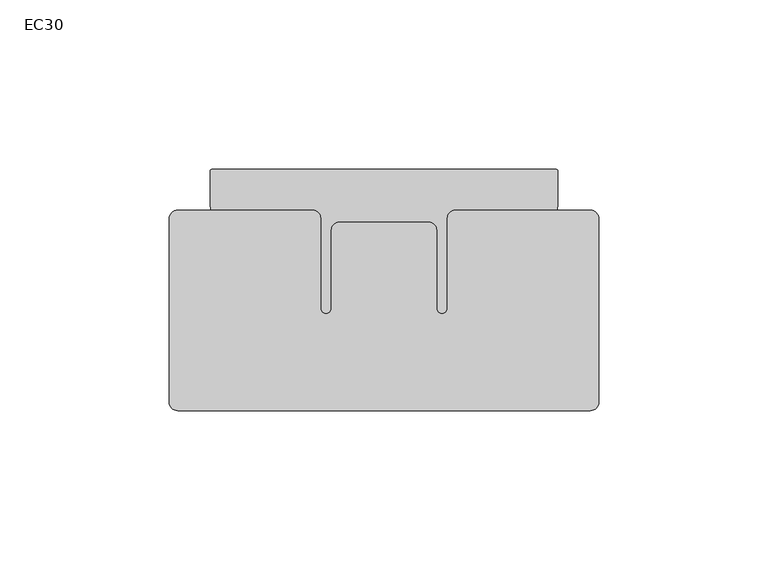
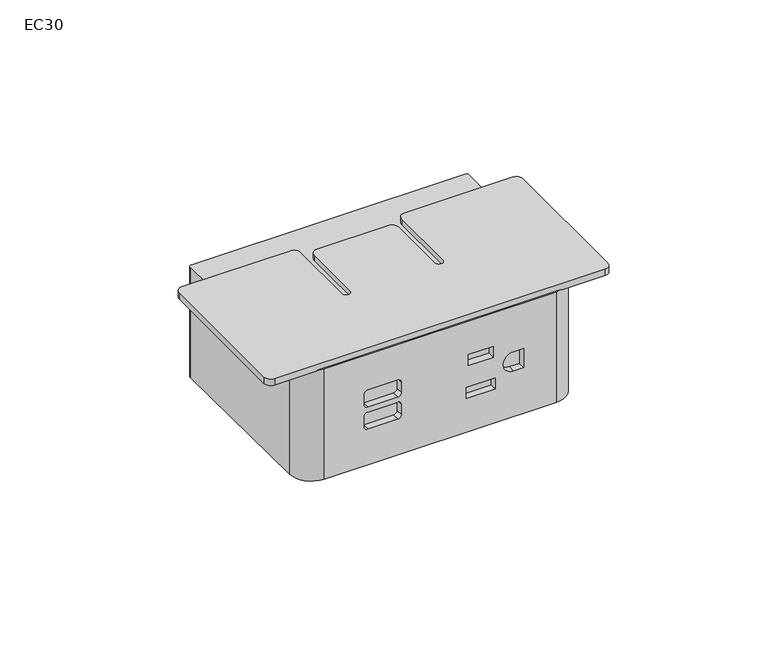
"""IFC4 building model written with IfcOpenShell, lengths in millimetres: furniture geometry, JSI-Teekan-Power_Center : EC30."""

from ifc_helpers import new_model, si_unit, point, frame, frame_2d, origin, place, context, project, spatial, polyline, circle_curve, trimmed, segment, composite_curve, outline, extrude, source, transform, mapped, element, save
from ifc_brep_helpers import plane_surface, cylinder_surface, revolved_surface, advanced_brep


def ec30_fccee3ca(model_context):
    return source(origin(), model_context, "Body", "SolidModel", [
        advanced_brep(
        [(-50.868665, -27.8085302, 271.78), (-42.9314673, -35.6767634, 271.78), (42.9314673, -35.6767634, 271.78), (50.868665, -27.8085302, 271.78), (51.4157054, 34.8760867, 271.78), (50.6219856, 35.6767634, 271.78), (-50.6386388, 35.6767634, 271.78), (-51.4158507, 34.8927392, 271.78), (-50.868665, -27.8085302, 228.6), (-51.4158507, 34.8927392, 228.6), (-50.6386388, 35.6767634, 228.6), (50.6219856, 35.6767634, 228.6), (51.4157054, 34.8760867, 228.6), (50.868665, -27.8085302, 228.6), (42.9314673, -35.6767634, 228.6), (-42.9314673, -35.6767634, 228.6), (-26.654774, -35.6767634, 257.7293861), (-15.5182577, -35.6767634, 257.7293861), (-14.2284139, -35.6767634, 256.4395423), (-14.2284139, -35.6767634, 252.4240577), (-15.5182577, -35.6767634, 251.1342139), (-26.6570983, -35.6767634, 251.1342139), (-27.9355861, -35.6767634, 252.4127017), (-27.9355861, -35.6767634, 256.448574), (-26.6457423, -35.6767634, 249.0935397), (-15.5182577, -35.6767634, 249.0935397), (-14.2284139, -35.6767634, 247.8036959), (-14.2284139, -35.6767634, 243.7882112), (-15.5182577, -35.6767634, 242.4983675), (-26.6457423, -35.6767634, 242.4983675), (-27.9355861, -35.6767634, 243.7882112), (-27.9355861, -35.6767634, 247.8036959), (10.5761384, -35.6767634, 258.6003624), (19.7768627, -35.6767634, 258.6003624), (19.7768627, -35.6767634, 254.3272341), (10.5761384, -35.6767634, 254.3272341), (9.8649384, -35.6767634, 245.9003625), (20.4819631, -35.6767634, 245.9003625), (20.4819631, -35.6767634, 241.6272342), (9.8649384, -35.6767634, 241.6272342), (30.9508221, -35.6767634, 253.8505616), (30.9508221, -35.6767634, 246.3770384), (27.2301188, -35.6767634, 246.3770384), (27.2301188, -35.6767634, 253.8505616), (-15.5182577, -32.8933266, 257.7293861), (-26.654774, -32.8933266, 257.7293861), (-27.9355861, -32.8933266, 256.448574), (-27.9355861, -32.8933266, 252.4127017), (-26.6570983, -32.8933266, 251.1342139), (-15.5182577, -32.8933266, 251.1342139), (-14.2284139, -32.8933266, 252.4240577), (-14.2284139, -32.8933266, 256.4395423), (-15.5182577, -32.8933266, 249.0935397), (-26.6457423, -32.8933266, 249.0935397), (-27.9355861, -32.8933266, 247.8036959), (-27.9355861, -32.8933266, 243.7882112), (-26.6457423, -32.8933266, 242.4983675), (-15.5182577, -32.8933266, 242.4983675), (-14.2284139, -32.8933266, 243.7882112), (-14.2284139, -32.8933266, 247.8036959), (19.7768627, -32.8933266, 258.6003624), (10.5761384, -32.8933266, 258.6003624), (10.5761384, -32.8933266, 254.3272341), (19.7768627, -32.8933266, 254.3272341), (20.4819631, -32.8933266, 245.9003625), (9.8649384, -32.8933266, 245.9003625), (9.8649384, -32.8933266, 241.6272342), (20.4819631, -32.8933266, 241.6272342), (30.9508221, -32.8933266, 246.3770384), (30.9508221, -32.8933266, 253.8505616), (27.2301188, -32.8933266, 253.8505616), (27.2301188, -32.8933266, 246.3770384)],
        [
            (0, 1, circle_curve(frame((-42.9314673, -27.7392634, 271.78), z_axis=(0.0, 0.0, 1.0), x_axis=(1.0, 0.0, 0.0)), 7.9375)),
            (1, 2),
            (2, 3, circle_curve(frame((42.9314673, -27.7392634, 271.78), z_axis=(0.0, 0.0, 1.0), x_axis=(1.0, 0.0, 0.0)), 7.9375)),
            (3, 4),
            (4, 5, circle_curve(frame((50.6219856, 34.8830134, 271.78), z_axis=(0.0, 0.0, 1.0), x_axis=(1.0, 0.0, 0.0)), 0.79375)),
            (5, 6),
            (6, 7, circle_curve(frame((-50.6386388, 34.8995218, 271.78), z_axis=(0.0, 0.0, 1.0), x_axis=(1.0, 0.0, 0.0)), 0.7772415)),
            (7, 0),
            (8, 9),
            (9, 10, circle_curve(frame((-50.6386388, 34.8995218, 228.6), z_axis=(0.0, 0.0, -1.0), x_axis=(1.0, 0.0, 0.0)), 0.7772415)),
            (10, 11),
            (11, 12, circle_curve(frame((50.6219856, 34.8830134, 228.6), z_axis=(0.0, 0.0, -1.0), x_axis=(1.0, 0.0, 0.0)), 0.79375)),
            (12, 13),
            (13, 14, circle_curve(frame((42.9314673, -27.7392634, 228.6), z_axis=(0.0, 0.0, -1.0), x_axis=(1.0, 0.0, 0.0)), 7.9375)),
            (14, 15),
            (15, 8, circle_curve(frame((-42.9314673, -27.7392634, 228.6), z_axis=(0.0, 0.0, -1.0), x_axis=(1.0, 0.0, 0.0)), 7.9375)),
            (0, 8),
            (15, 1),
            (14, 2),
            (16, 17),
            (17, 18, circle_curve(frame((-15.5182577, -35.6767634, 256.4395423), z_axis=(0.0, 1.0, 0.0), x_axis=(1.0, 0.0, 0.0)), 1.2898438)),
            (18, 19),
            (19, 20, circle_curve(frame((-15.5182577, -35.6767634, 252.4240577), z_axis=(0.0, 1.0, 0.0), x_axis=(1.0, 0.0, 0.0)), 1.2898437)),
            (20, 21),
            (21, 22, circle_curve(frame((-26.6570983, -35.6767634, 252.4127017), z_axis=(0.0, 1.0, 0.0), x_axis=(1.0, 0.0, 0.0)), 1.2784878)),
            (22, 23),
            (23, 16, circle_curve(frame((-26.654774, -35.6767634, 256.448574), z_axis=(0.0, 1.0, 0.0), x_axis=(1.0, 0.0, 0.0)), 1.2808121)),
            (24, 25),
            (25, 26, circle_curve(frame((-15.5182577, -35.6767634, 247.8036959), z_axis=(0.0, 1.0, 0.0), x_axis=(1.0, 0.0, 0.0)), 1.2898438)),
            (26, 27),
            (27, 28, circle_curve(frame((-15.5182577, -35.6767634, 243.7882112), z_axis=(0.0, 1.0, 0.0), x_axis=(1.0, 0.0, 0.0)), 1.2898437)),
            (28, 29),
            (29, 30, circle_curve(frame((-26.6457423, -35.6767634, 243.7882112), z_axis=(0.0, 1.0, 0.0), x_axis=(1.0, 0.0, 0.0)), 1.2898438)),
            (30, 31),
            (31, 24, circle_curve(frame((-26.6457423, -35.6767634, 247.8036959), z_axis=(0.0, 1.0, 0.0), x_axis=(1.0, 0.0, 0.0)), 1.2898438)),
            (32, 33),
            (33, 34),
            (34, 35),
            (35, 32),
            (36, 37),
            (37, 38),
            (38, 39),
            (39, 36),
            (40, 41),
            (41, 42),
            (42, 43, circle_curve(frame((27.2301188, -35.6767634, 250.1138), z_axis=(0.0, 1.0, 0.0), x_axis=(1.0, 0.0, 0.0)), 3.7367616)),
            (43, 40),
            (13, 3),
            (12, 4),
            (11, 5),
            (10, 6),
            (9, 7),
            (44, 45),
            (45, 46, circle_curve(frame((-26.654774, -32.8933266, 256.448574), z_axis=(0.0, -1.0, 0.0), x_axis=(1.0, 0.0, 0.0)), 1.2808121)),
            (46, 47),
            (47, 48, circle_curve(frame((-26.6570983, -32.8933266, 252.4127017), z_axis=(0.0, -1.0, 0.0), x_axis=(1.0, 0.0, 0.0)), 1.2784878)),
            (48, 49),
            (49, 50, circle_curve(frame((-15.5182577, -32.8933266, 252.4240577), z_axis=(0.0, -1.0, 0.0), x_axis=(1.0, 0.0, 0.0)), 1.2898438)),
            (50, 51),
            (51, 44, circle_curve(frame((-15.5182577, -32.8933266, 256.4395423), z_axis=(0.0, -1.0, 0.0), x_axis=(1.0, 0.0, 0.0)), 1.2898438)),
            (52, 53),
            (53, 54, circle_curve(frame((-26.6457423, -32.8933266, 247.8036959), z_axis=(0.0, -1.0, 0.0), x_axis=(1.0, 0.0, 0.0)), 1.2898438)),
            (54, 55),
            (55, 56, circle_curve(frame((-26.6457423, -32.8933266, 243.7882112), z_axis=(0.0, -1.0, 0.0), x_axis=(1.0, 0.0, 0.0)), 1.2898437)),
            (56, 57),
            (57, 58, circle_curve(frame((-15.5182577, -32.8933266, 243.7882112), z_axis=(0.0, -1.0, 0.0), x_axis=(1.0, 0.0, 0.0)), 1.2898438)),
            (58, 59),
            (59, 52, circle_curve(frame((-15.5182577, -32.8933266, 247.8036959), z_axis=(0.0, -1.0, 0.0), x_axis=(1.0, 0.0, 0.0)), 1.2898438)),
            (60, 61),
            (61, 62),
            (62, 63),
            (63, 60),
            (64, 65),
            (65, 66),
            (66, 67),
            (67, 64),
            (68, 69),
            (69, 70),
            (70, 71, circle_curve(frame((27.2301188, -32.8933266, 250.1138), z_axis=(0.0, -1.0, 0.0), x_axis=(1.0, 0.0, 0.0)), 3.7367616)),
            (71, 68),
            (44, 17),
            (16, 45),
            (23, 46),
            (22, 47),
            (21, 48),
            (20, 49),
            (19, 50),
            (18, 51),
            (52, 25),
            (24, 53),
            (31, 54),
            (30, 55),
            (29, 56),
            (28, 57),
            (27, 58),
            (26, 59),
            (60, 33),
            (32, 61),
            (35, 62),
            (34, 63),
            (64, 37),
            (36, 65),
            (39, 66),
            (38, 67),
            (68, 41),
            (40, 69),
            (43, 70),
            (42, 71),
        ],
        [
            plane_surface(frame((-34.9939673, -27.7392634, 271.78), z_axis=(0.0, 0.0, 1.0), x_axis=(0.0, 1.0, 0.0))),
            plane_surface(frame((-34.9939673, -27.7392634, 228.6), z_axis=(0.0, 0.0, -1.0), x_axis=(0.0, -1.0, 0.0))),
            cylinder_surface(frame((-42.9314673, -27.7392634, 228.6), z_axis=(0.0, 0.0, 1.0), x_axis=(1.0, 0.0, 0.0)), 7.9375),
            plane_surface(frame((-42.9314673, -35.6767634, 271.78), z_axis=(0.0, -1.0, 0.0), x_axis=(0.0, 0.0, -1.0))),
            cylinder_surface(frame((42.9314673, -27.7392634, 228.6), z_axis=(0.0, 0.0, 1.0), x_axis=(1.0, 0.0, 0.0)), 7.9375),
            plane_surface(frame((50.868665, -27.8085302, 271.78), z_axis=(0.9999619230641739, -0.00872653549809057, 0.0), x_axis=(0.0, 0.0, -1.0))),
            cylinder_surface(frame((50.6219856, 34.8830134, 228.6), z_axis=(0.0, 0.0, 1.0), x_axis=(1.0, 0.0, 0.0)), 0.79375),
            plane_surface(frame((50.6219856, 35.6767634, 271.78), z_axis=(0.0, 1.0, 0.0), x_axis=(0.0, 0.0, -1.0))),
            cylinder_surface(frame((-50.6386388, 34.8995218, 228.6), z_axis=(0.0, 0.0, 1.0), x_axis=(1.0, 0.0, 0.0)), 0.7772415),
            plane_surface(frame((-51.4158507, 34.8927392, 271.78), z_axis=(-0.9999619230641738, -0.008726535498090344, 0.0), x_axis=(0.0, 0.0, -1.0))),
            plane_surface(frame((-25.8158947, -32.8933266, 257.7293861), z_axis=(0.0, -1.0, 0.0), x_axis=(1.0, 0.0, 0.0))),
            plane_surface(frame((-15.5182577, -36.0683266, 257.7293861), z_axis=(0.0, 0.0, -1.0), x_axis=(0.0, 1.0, 0.0))),
            revolved_surface(polyline([(-25.3739619, -35.6767634, 256.448574), (-25.3739619, -32.8933266, 256.448574)]), (-26.654774, -32.8933266, 256.448574), (0.0, -1.0, 0.0)),
            plane_surface(frame((-27.9355861, -36.0683266, 256.448574), z_axis=(1.0, 0.0, 0.0), x_axis=(0.0, 1.0, 0.0))),
            revolved_surface(polyline([(-25.3786105, -35.6767634, 252.4127017), (-25.3786105, -32.8933266, 252.4127017)]), (-26.6570983, -32.8933266, 252.4127017), (0.0, -1.0, 0.0)),
            plane_surface(frame((-26.6570983, -36.0683266, 251.1342139), z_axis=(0.0, 0.0, 1.0), x_axis=(0.0, 1.0, 0.0))),
            revolved_surface(polyline([(-14.2284139, -35.6767634, 252.4240577), (-14.2284139, -32.8933266, 252.4240577)]), (-15.5182577, -32.8933266, 252.4240577), (0.0, -1.0, 0.0)),
            plane_surface(frame((-14.2284139, -36.0683266, 252.4240577), z_axis=(-1.0, 0.0, 0.0), x_axis=(0.0, 1.0, 0.0))),
            revolved_surface(polyline([(-14.2284139, -35.6767634, 256.4395423), (-14.2284139, -32.8933266, 256.4395423)]), (-15.5182577, -32.8933266, 256.4395423), (0.0, -1.0, 0.0)),
            plane_surface(frame((-15.5182577, -36.0683266, 249.0935397), z_axis=(0.0, 0.0, -1.0), x_axis=(0.0, 1.0, 0.0))),
            revolved_surface(polyline([(-25.3558985, -35.6767634, 247.8036959), (-25.3558985, -32.8933266, 247.8036959)]), (-26.6457423, 0.0, 247.8036959), (0.0, -1.0, 0.0)),
            plane_surface(frame((-27.9355861, -36.0683266, 247.8036959), z_axis=(1.0, 0.0, 0.0), x_axis=(0.0, 1.0, 0.0))),
            revolved_surface(polyline([(-25.3558985, -35.6767634, 243.7882112), (-25.3558985, -32.8933266, 243.7882112)]), (-26.6457423, 0.0, 243.7882112), (0.0, -1.0, 0.0)),
            plane_surface(frame((-26.6457423, -36.0683266, 242.4983675), z_axis=(0.0, 0.0, 1.0), x_axis=(0.0, 1.0, 0.0))),
            revolved_surface(polyline([(-14.2284139, -35.6767634, 243.7882112), (-14.2284139, -32.8933266, 243.7882112)]), (-15.5182577, 0.0, 243.7882112), (0.0, -1.0, 0.0)),
            plane_surface(frame((-14.2284139, -36.0683266, 243.7882112), z_axis=(-1.0, 0.0, 0.0), x_axis=(0.0, 1.0, 0.0))),
            revolved_surface(polyline([(-14.2284139, -35.6767634, 247.8036959), (-14.2284139, -32.8933266, 247.8036959)]), (-15.5182577, 0.0, 247.8036959), (0.0, -1.0, 0.0)),
            plane_surface(frame((19.7768627, -36.0683266, 258.6003624), z_axis=(0.0, 0.0, -1.0), x_axis=(0.0, 1.0, 0.0))),
            plane_surface(frame((10.5761384, -36.0683266, 258.6003624), z_axis=(1.0, 0.0, 0.0), x_axis=(0.0, 1.0, 0.0))),
            plane_surface(frame((10.5761384, -36.0683266, 254.3272341), z_axis=(0.0, 0.0, 1.0), x_axis=(0.0, 1.0, 0.0))),
            plane_surface(frame((19.7768627, -36.0683266, 254.3272341), z_axis=(-1.0, 0.0, 0.0), x_axis=(0.0, 1.0, 0.0))),
            plane_surface(frame((20.4819631, -36.0683266, 245.9003625), z_axis=(0.0, 0.0, -1.0), x_axis=(0.0, 1.0, 0.0))),
            plane_surface(frame((9.8649384, -36.0683266, 245.9003625), z_axis=(1.0, 0.0, 0.0), x_axis=(0.0, 1.0, 0.0))),
            plane_surface(frame((9.8649384, -36.0683266, 241.6272342), z_axis=(0.0, 0.0, 1.0), x_axis=(0.0, 1.0, 0.0))),
            plane_surface(frame((20.4819631, -36.0683266, 241.6272342), z_axis=(-1.0, 0.0, 0.0), x_axis=(0.0, 1.0, 0.0))),
            plane_surface(frame((30.9508221, -36.0683266, 246.3770384), z_axis=(-1.0, 0.0, 0.0), x_axis=(0.0, 1.0, 0.0))),
            plane_surface(frame((30.9508221, -36.0683266, 253.8505616), z_axis=(0.0, 0.0, -1.0), x_axis=(0.0, 1.0, 0.0))),
            revolved_surface(polyline([(30.9668804, -35.6767634, 250.1138), (30.9668804, -32.8933266, 250.1138)]), (27.2301188, 0.0, 250.1138), (0.0, -1.0, 0.0)),
            plane_surface(frame((27.2301188, -36.0683266, 246.3770384), z_axis=(0.0, 0.0, 1.0), x_axis=(0.0, 1.0, 0.0))),
        ],
        [
            (0, [[1, 2, 3, 4, 5, 6, 7, 8]]),
            (1, [[9, 10, 11, 12, 13, 14, 15, 16]]),
            (2, [[-1, 17, -16, 18]]),
            (3, [[-2, -18, -15, 19], [20, 21, 22, 23, 24, 25, 26, 27], [28, 29, 30, 31, 32, 33, 34, 35], [36, 37, 38, 39], [40, 41, 42, 43], [44, 45, 46, 47]]),
            (4, [[-3, -19, -14, 48]]),
            (5, [[-4, -48, -13, 49]]),
            (6, [[-5, -49, -12, 50]]),
            (7, [[-6, -50, -11, 51]]),
            (8, [[-7, -51, -10, 52]]),
            (9, [[-8, -52, -9, -17]]),
            (10, [[53, 54, 55, 56, 57, 58, 59, 60]]),
            (10, [[61, 62, 63, 64, 65, 66, 67, 68]]),
            (10, [[69, 70, 71, 72]]),
            (10, [[73, 74, 75, 76]]),
            (10, [[77, 78, 79, 80]]),
            (11, [[-53, 81, -20, 82]]),
            (12, [[-54, -82, -27, 83]]),
            (13, [[-55, -83, -26, 84]]),
            (14, [[-56, -84, -25, 85]]),
            (15, [[-57, -85, -24, 86]]),
            (16, [[-58, -86, -23, 87]]),
            (17, [[-59, -87, -22, 88]]),
            (18, [[-60, -88, -21, -81]]),
            (19, [[-61, 89, -28, 90]]),
            (20, [[-62, -90, -35, 91]]),
            (21, [[-63, -91, -34, 92]]),
            (22, [[-64, -92, -33, 93]]),
            (23, [[-65, -93, -32, 94]]),
            (24, [[-66, -94, -31, 95]]),
            (25, [[-67, -95, -30, 96]]),
            (26, [[-68, -96, -29, -89]]),
            (27, [[-69, 97, -36, 98]]),
            (28, [[-70, -98, -39, 99]]),
            (29, [[-71, -99, -38, 100]]),
            (30, [[-72, -100, -37, -97]]),
            (31, [[-73, 101, -40, 102]]),
            (32, [[-74, -102, -43, 103]]),
            (33, [[-75, -103, -42, 104]]),
            (34, [[-76, -104, -41, -101]]),
            (35, [[-77, 105, -44, 106]]),
            (36, [[-78, -106, -47, 107]]),
            (37, [[-79, -107, -46, 108]]),
            (38, [[-80, -108, -45, -105]]),
        ],
    ),
        extrude(outline(composite_curve([segment(trimmed(circle_curve(frame_2d((-21.1212622, 21.1342553)), 2.3886392), [point((-21.1212622, 23.5228945))], [point((-18.732623, 21.1342553))], False, "CARTESIAN"), True, "CONTINUOUS"), segment(polyline([(-18.732623, 21.1342553), (-18.732623, -5.432643)]), True, "CONTINUOUS"), segment(trimmed(circle_curve(frame_2d((-17.1450615, -5.432643)), 1.5875615), [point((-18.732623, -5.432643))], [point((-15.5575, -5.432643))], True, "CARTESIAN"), True, "CONTINUOUS"), segment(polyline([(-15.5575, -5.432643), (-15.5575, 17.6281967)]), True, "CONTINUOUS"), segment(trimmed(circle_curve(frame_2d((-13.17625, 17.6281967)), 2.38125), [point((-15.5575, 17.6281967))], [point((-13.17625, 20.0094467))], False, "CARTESIAN"), True, "CONTINUOUS"), segment(polyline([(-13.17625, 20.0094467), (13.17625, 20.0094467)]), True, "CONTINUOUS"), segment(trimmed(circle_curve(frame_2d((13.17625, 17.6281967)), 2.38125), [point((13.17625, 20.0094467))], [point((15.5575, 17.6281967))], False, "CARTESIAN"), True, "CONTINUOUS"), segment(polyline([(15.5575, 17.6281967), (15.5575, -5.4092499)]), True, "CONTINUOUS"), segment(trimmed(circle_curve(frame_2d((17.1450615, -5.4092499)), 1.5875615), [point((15.5575, -5.4092499))], [point((18.732623, -5.4092499))], True, "CARTESIAN"), True, "CONTINUOUS"), segment(polyline([(18.732623, -5.4092499), (18.732623, 21.1416445)]), True, "CONTINUOUS"), segment(trimmed(circle_curve(frame_2d((21.113873, 21.1416445)), 2.38125), [point((18.732623, 21.1416445))], [point((21.113873, 23.5228945))], False, "CARTESIAN"), True, "CONTINUOUS"), segment(polyline([(21.113873, 23.5228945), (61.0195313, 23.5228945)]), True, "CONTINUOUS"), segment(trimmed(circle_curve(frame_2d((61.0195313, 21.0424258)), 2.4804688), [point((61.0195313, 23.5228945))], [point((63.5, 21.0424258))], False, "CARTESIAN"), True, "CONTINUOUS"), segment(polyline([(63.5, 21.0424258), (63.5, -33.1962946)]), True, "CONTINUOUS"), segment(trimmed(circle_curve(frame_2d((61.0195313, -33.1962946)), 2.4804688), [point((63.5, -33.1962946))], [point((61.0195313, -35.6767634))], False, "CARTESIAN"), True, "CONTINUOUS"), segment(polyline([(61.0195313, -35.6767634), (-61.0019387, -35.6767634)]), True, "CONTINUOUS"), segment(trimmed(circle_curve(frame_2d((-61.0019387, -33.178702)), 2.4980613), [point((-61.0019387, -35.6767634))], [point((-63.5, -33.178702))], False, "CARTESIAN"), True, "CONTINUOUS"), segment(polyline([(-63.5, -33.178702), (-63.5, 21.0019878)]), True, "CONTINUOUS"), segment(trimmed(circle_curve(frame_2d((-60.9790933, 21.0019878)), 2.5209067), [point((-63.5, 21.0019878))], [point((-60.9790933, 23.5228945))], False, "CARTESIAN"), True, "CONTINUOUS"), segment(polyline([(-60.9790933, 23.5228945), (-21.1212622, 23.5228945)]), True, "CONTINUOUS")], self_intersect=False)), frame((0.0, 0.0, 271.78), z_axis=(0.0, 0.0, 1.0), x_axis=(1.0, 0.0, 0.0)), (0.0, 0.0, 1.0), 2.54),
    ])


if __name__ == "__main__":
    model = new_model("IFC4")
    model_context = context("Model", 3, world=origin())
    ifc_project = project(units=[si_unit("LENGTHUNIT", "METRE", prefix="MILLI")], contexts=[model_context])
    site = spatial("IfcSite", under=ifc_project)
    building = spatial("IfcBuilding", under=site)
    placement = place(None, origin())
    ec30_shape = ec30_fccee3ca(model_context)
    element("IfcFurniture", 1, ObjectType="JSI-Teekan-Power_Center : EC30", at=placement, inside=building, context=model_context, shape_type="MappedRepresentation", body=[
        mapped(ec30_shape, transform((0.0, 0.0, 0.0), x_axis=(1.0, 0.0, 0.0), y_axis=(0.0, 1.0, 0.0), z_axis=(0.0, 0.0, 1.0))),
    ])
    save(model, "model.ifc")
